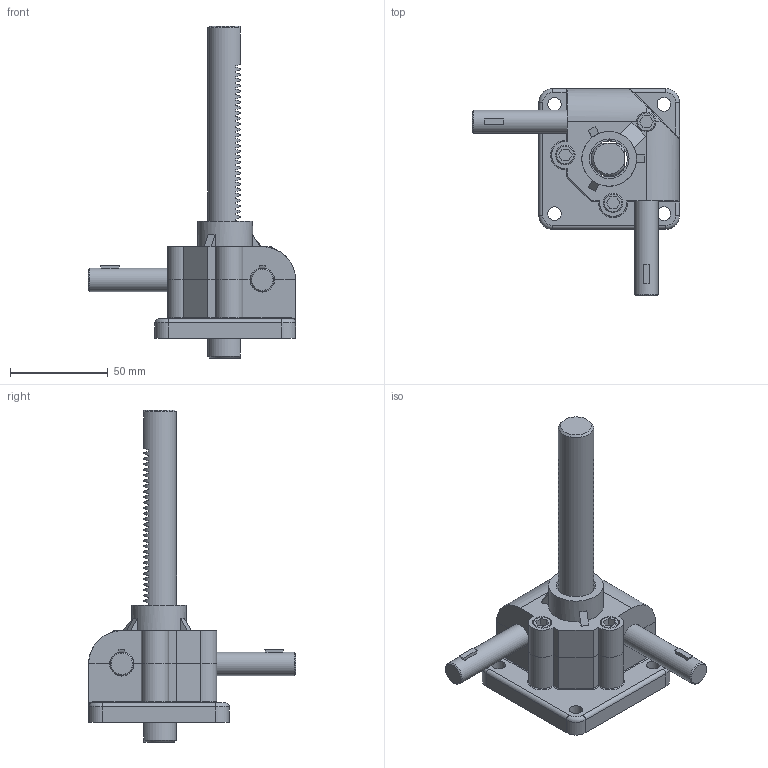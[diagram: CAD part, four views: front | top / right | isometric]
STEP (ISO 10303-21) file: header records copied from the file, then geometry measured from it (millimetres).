
FILE_DESCRIPTION(('STEP AP203'),'1');
FILE_NAME('SP1-300U-100ST.stp','2022-06-15T02:49:24',(' '),(' '),'Spatial InterOp 3D',' ',' ');
FILE_SCHEMA(('CONFIG_CONTROL_DESIGN'));
Length unit declared in the file: millimetre
Products named in the file (13): SP1-300U-100ST; Rack Gear(SP-300); Body-Part; Key; Bolt; Shaft(SP1-300); Gear Box(Upper); Gear Box(Lower); RJ05-4SCJ-610X600-100ST_CAP; LABEL-B.1; ___; 파트18; __ 
Assembly tree (16 placements, depth 6):
  SP1-300U-100ST
    Rack Gear(SP-300)
    Body-Part
      Key  x2
      Bolt  x3
      Shaft(SP1-300)  x2
      Gear Box(Upper)
      Gear Box(Lower)
      __ 
        ___
          RJ05-4SCJ-610X600-100ST_CAP
            LABEL-B.1
          파트18
Bounding box: 106 x 106.18 x 170 mm (x, y, z)
Volume: 131803.2 mm3; surface area: 64400.8 mm2
Topology: 18 solids, 18 shells, 2452 faces, 6944 edges, 4509 vertices
Faces by surface type: plane 2129, cylinder 227, bspline 42, torus 26, cone 21, sphere 7
Full cylindrical faces by diameter (mm): 6 x6, 7 x7, 8 x1, 10 x6, 12 x2, 18.5 x2, 20.3 x4, 21.3 x2, 28 x1
Entity records: 80933 total; most frequent: CARTESIAN_POINT 17883, ORIENTED_EDGE 13530, DIRECTION 12047, EDGE_CURVE 6765, LINE 5951, VECTOR 5951, VERTEX_POINT 4446, AXIS2_PLACEMENT_3D 3048
